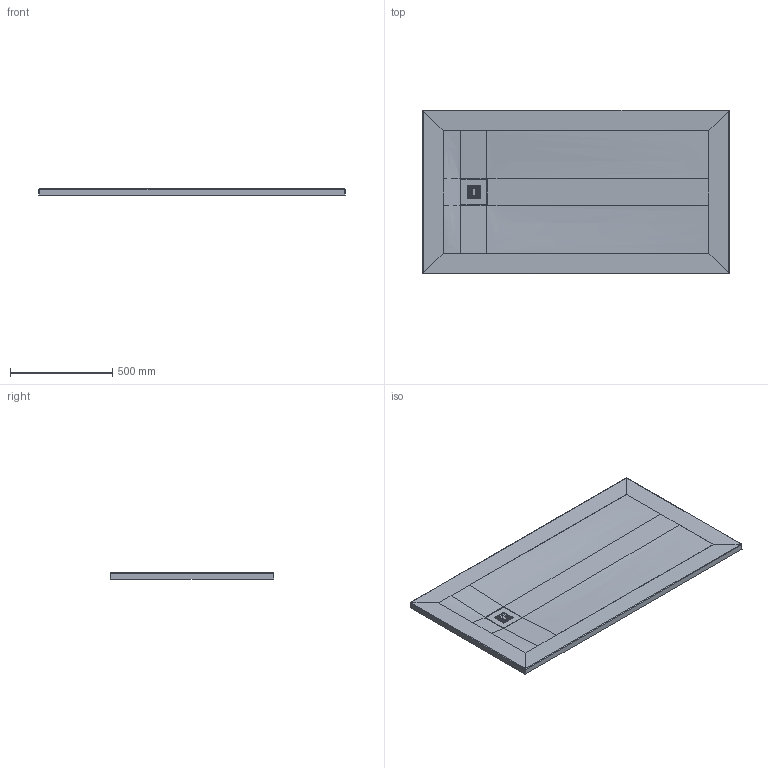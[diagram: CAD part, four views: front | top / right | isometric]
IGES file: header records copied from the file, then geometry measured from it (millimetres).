
Global section: file name: d:\users\matthias.isele\Desktop\planungsdaten\W&W\Sustano\720283\3D\720283.igs; native system: Rhinoceros ( Sep 13 2016 ); preprocessor: Trout Lake IGES 012 Sep 13 2016; date: 220210.075102; units: millimetre
Bounding box: 1500 x 800 x 30 mm (x, y, z)
Surface area: 1343030.2 mm2 (no closed solid volume)
Topology: 0 solids, 0 shells, 116 faces, 724 edges, 724 vertices
Faces by surface type: bspline 116
